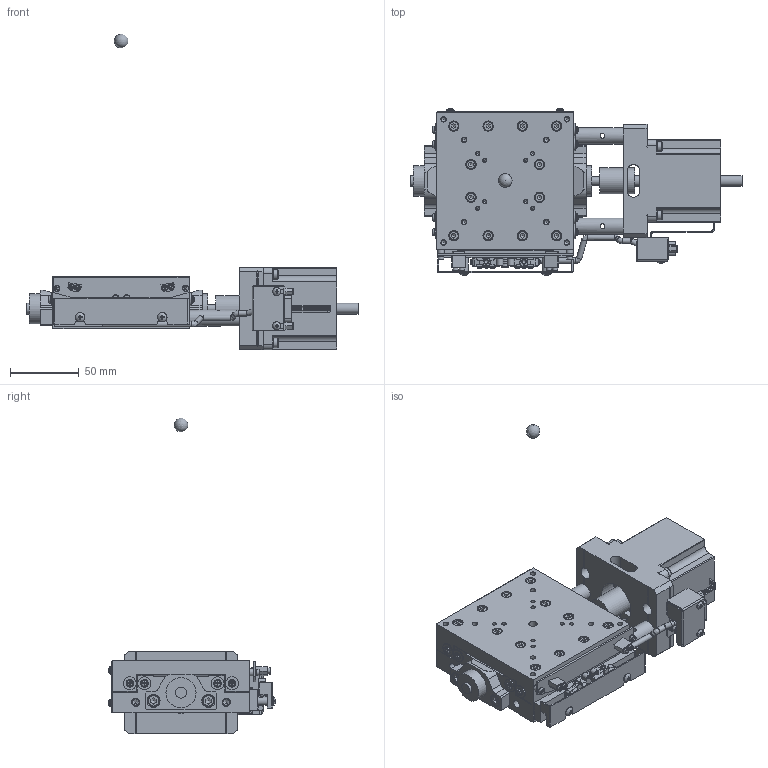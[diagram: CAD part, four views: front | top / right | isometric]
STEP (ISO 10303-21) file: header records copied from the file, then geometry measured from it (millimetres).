
FILE_DESCRIPTION( (''), '2;1');
FILE_NAME ('MVSA10A-RB01-R.stp','2025-02-07T09:38:34',(''),(''),'spGate 20.6.2 (****-****-****-****)','','');
FILE_SCHEMA (('AUTOMOTIVE_DESIGN'));
Length unit declared in the file: millimetre
Products named in the file (4): MVSA10A-RB01-R; table; base; rotation center
Assembly tree (3 placements, depth 2):
  MVSA10A-RB01-R
    table
    base
    rotation center
Bounding box: 242.3 x 121.67 x 230.3 mm (x, y, z)
Volume: 662772.7 mm3; surface area: 139748.4 mm2
Topology: 3 solids, 5 shells, 2961 faces, 7784 edges, 5031 vertices
Faces by surface type: plane 2011, cylinder 610, bspline 297, sphere 43
Full cylindrical faces by diameter (mm): 0.5 x9, 0.9 x15, 1 x9, 1.2 x18, 1.6 x2, 1.7 x9, 1.8 x18, 2 x37, 2.156 x2, 2.3 x1, 2.46 x10, 2.5 x2, 2.6 x2, 2.845 x6, 2.9 x1, 3 x14, 3.2 x2, 3.24 x8, 3.5 x2, 3.8 x4, 4 x30, 4.3 x4, 4.5 x9, 4.7 x2, 4.92 x2, 5 x3, 5.1 x1, 5.5 x17, 5.9 x2, 6 x13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
Entity records: 159129 total; most frequent: CARTESIAN_POINT 25480, ORIENTED_EDGE 15362, DIRECTION 14781, COLOUR_RGB 10645, PRESENTATION_STYLE_ASSIGNMENT 10645, STYLED_ITEM 10645, EDGE_CURVE 7681, DRAUGHTING_PRE_DEFINED_CURVE_FONT 7681
